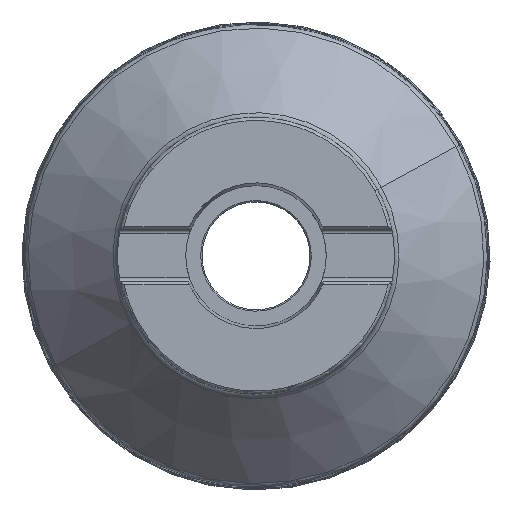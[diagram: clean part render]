
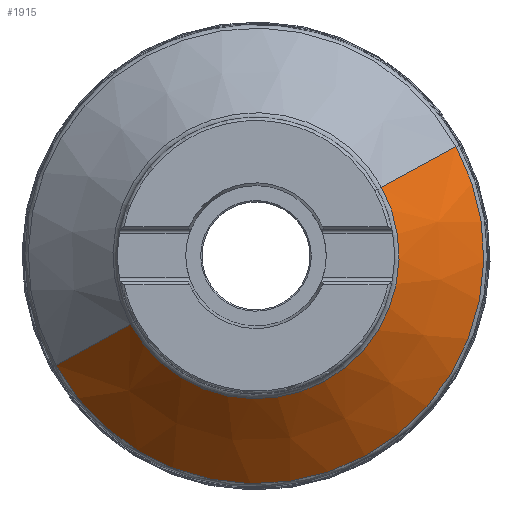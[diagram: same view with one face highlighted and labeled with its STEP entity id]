
A CAD part, top view. The second image highlights one B-rep face of the part: STEP entity #1915.
In plain terms, the highlighted conical face has half-angle 44.199 degrees and reference radius 50 mm.
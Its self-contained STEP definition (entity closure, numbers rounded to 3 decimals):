
#1803=AXIS2_PLACEMENT_3D('Circle Axis2P3D',#1801,#1802,$) ;
#1888=AXIS2_PLACEMENT_3D('Cone Axis2P3D',#1885,#1886,#1887) ;
#1906=AXIS2_PLACEMENT_3D('Circle Axis2P3D',#1904,#1905,$) ;
#1798=CARTESIAN_POINT('Vertex',(-45.37,-24.786,-17.747)) ;
#1801=CARTESIAN_POINT('Axis2P3D Location',(0.,0.,-17.747)) ;
#1805=CARTESIAN_POINT('Vertex',(45.37,24.786,-17.747)) ;
#1885=CARTESIAN_POINT('Axis2P3D Location',(0.,0.,-16.)) ;
#1890=CARTESIAN_POINT('Line Origine',(58.813,32.13,-33.5)) ;
#1894=CARTESIAN_POINT('Vertex',(72.257,39.474,-49.253)) ;
#1897=CARTESIAN_POINT('Line Origine',(-58.813,-32.13,-33.5)) ;
#1901=CARTESIAN_POINT('Vertex',(-72.257,-39.474,-49.253)) ;
#1904=CARTESIAN_POINT('Axis2P3D Location',(0.,0.,-49.253)) ;
#1802=DIRECTION('Axis2P3D Direction',(0.,-0.,1.)) ;
#1886=DIRECTION('Axis2P3D Direction',(-0.,-0.,-1.)) ;
#1887=DIRECTION('Axis2P3D XDirection',(-0.878,-0.479,0.)) ;
#1891=DIRECTION('Vector Direction',(0.612,0.334,-0.717)) ;
#1898=DIRECTION('Vector Direction',(-0.612,-0.334,-0.717)) ;
#1905=DIRECTION('Axis2P3D Direction',(0.,0.,-1.)) ;
#1892=VECTOR('Line Direction',#1891,1.) ;
#1899=VECTOR('Line Direction',#1898,1.) ;
#1910=ORIENTED_EDGE('',*,*,#1896,.T.) ;
#1911=ORIENTED_EDGE('',*,*,#1807,.T.) ;
#1912=ORIENTED_EDGE('',*,*,#1903,.F.) ;
#1913=ORIENTED_EDGE('',*,*,#1908,.T.) ;
#1915=ADVANCED_FACE('NOCUT',(#1914),#1889,.T.) ;
#1804=CIRCLE('generated circle',#1803,51.698) ;
#1907=CIRCLE('generated circle',#1906,82.336) ;
#1889=CONICAL_SURFACE('Cone',#1888,50.,0.771) ;
#1807=EDGE_CURVE('',#1806,#1799,#1804,.F.) ;
#1896=EDGE_CURVE('',#1895,#1806,#1893,.F.) ;
#1903=EDGE_CURVE('',#1902,#1799,#1900,.F.) ;
#1908=EDGE_CURVE('',#1902,#1895,#1907,.F.) ;
#1909=EDGE_LOOP('',(#1910,#1911,#1912,#1913)) ;
#1914=FACE_OUTER_BOUND('',#1909,.T.) ;
#1893=LINE('Line',#1890,#1892) ;
#1900=LINE('Line',#1897,#1899) ;
#1799=VERTEX_POINT('',#1798) ;
#1806=VERTEX_POINT('',#1805) ;
#1895=VERTEX_POINT('',#1894) ;
#1902=VERTEX_POINT('',#1901) ;
